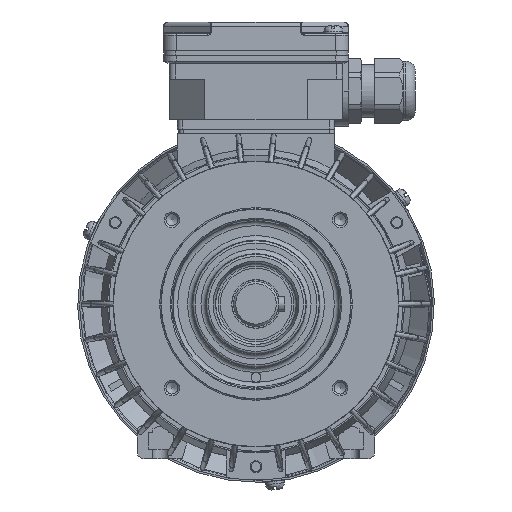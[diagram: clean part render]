
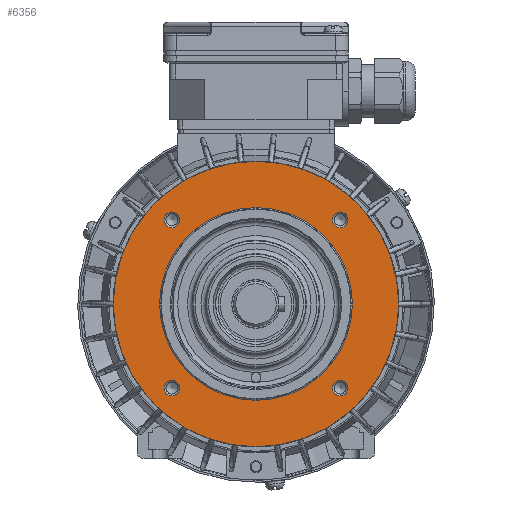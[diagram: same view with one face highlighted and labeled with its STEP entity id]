
A CAD part, left-side view. The second image highlights one B-rep face of the part: STEP entity #6356.
In plain terms, the highlighted planar face has unit normal (-1, 0, 0) as drawn and (0, -1, 0) by its records, which use the part's own axes.
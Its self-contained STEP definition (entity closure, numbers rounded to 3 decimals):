
#6356 = ADVANCED_FACE( '', ( #13157, #13158, #13159, #13160, #13161, #13162 ), #13163, .T. );
#13157 = FACE_BOUND( '', #34694, .T. );
#13158 = FACE_BOUND( '', #34695, .T. );
#13159 = FACE_BOUND( '', #34696, .T. );
#13160 = FACE_BOUND( '', #34697, .T. );
#13161 = FACE_BOUND( '', #34698, .T. );
#13162 = FACE_OUTER_BOUND( '', #34699, .T. );
#13163 = PLANE( '', #34700 );
#34694 = EDGE_LOOP( '', ( #55762 ) );
#34695 = EDGE_LOOP( '', ( #55763 ) );
#34696 = EDGE_LOOP( '', ( #55764 ) );
#34697 = EDGE_LOOP( '', ( #55765 ) );
#34698 = EDGE_LOOP( '', ( #55766 ) );
#34699 = EDGE_LOOP( '', ( #55767 ) );
#34700 = AXIS2_PLACEMENT_3D( '', #55768, #55769, #55770 );
#55762 = ORIENTED_EDGE( '', *, *, #63221, .T. );
#55763 = ORIENTED_EDGE( '', *, *, #66557, .T. );
#55764 = ORIENTED_EDGE( '', *, *, #64397, .T. );
#55765 = ORIENTED_EDGE( '', *, *, #60845, .T. );
#55766 = ORIENTED_EDGE( '', *, *, #68016, .T. );
#55767 = ORIENTED_EDGE( '', *, *, #68017, .T. );
#55768 = CARTESIAN_POINT( '', ( 0., 3., 40. ) );
#55769 = DIRECTION( '', ( 0., -1., 0. ) );
#55770 = DIRECTION( '', ( 0., 0., -1. ) );
#60845 = EDGE_CURVE( '', #70785, #70785, #70786, .F. );
#63221 = EDGE_CURVE( '', #74964, #74964, #74965, .F. );
#64397 = EDGE_CURVE( '', #76783, #76783, #76784, .F. );
#66557 = EDGE_CURVE( '', #79863, #79863, #79864, .F. );
#68016 = EDGE_CURVE( '', #81595, #81595, #81596, .F. );
#68017 = EDGE_CURVE( '', #81597, #81597, #81598, .T. );
#70785 = VERTEX_POINT( '', #84031 );
#70786 = CIRCLE( '', #84032, 3.3 );
#74964 = VERTEX_POINT( '', #92838 );
#74965 = CIRCLE( '', #92839, 3.3 );
#76783 = VERTEX_POINT( '', #97890 );
#76784 = CIRCLE( '', #97891, 3.3 );
#79863 = VERTEX_POINT( '', #105014 );
#79864 = CIRCLE( '', #105015, 3.3 );
#81595 = VERTEX_POINT( '', #110692 );
#81596 = CIRCLE( '', #110693, 40.5 );
#81597 = VERTEX_POINT( '', #110694 );
#81598 = CIRCLE( '', #110695, 60. );
#84031 = CARTESIAN_POINT( '', ( -35.355, 3., 32.055 ) );
#84032 = AXIS2_PLACEMENT_3D( '', #113891, #113892, #113893 );
#92838 = CARTESIAN_POINT( '', ( -35.355, 3., -38.655 ) );
#92839 = AXIS2_PLACEMENT_3D( '', #117143, #117144, #117145 );
#97890 = CARTESIAN_POINT( '', ( 35.355, 3., 32.055 ) );
#97891 = AXIS2_PLACEMENT_3D( '', #118448, #118449, #118450 );
#105014 = CARTESIAN_POINT( '', ( 35.355, 3., -38.655 ) );
#105015 = AXIS2_PLACEMENT_3D( '', #121010, #121011, #121012 );
#110692 = CARTESIAN_POINT( '', ( 0., 3., -40.5 ) );
#110693 = AXIS2_PLACEMENT_3D( '', #122053, #122054, #122055 );
#110694 = CARTESIAN_POINT( '', ( 0., 3., -60. ) );
#110695 = AXIS2_PLACEMENT_3D( '', #122056, #122057, #122058 );
#113891 = CARTESIAN_POINT( '', ( -35.355, 3., 35.355 ) );
#113892 = DIRECTION( '', ( 0., -1., 0. ) );
#113893 = DIRECTION( '', ( 0., 0., -1. ) );
#117143 = CARTESIAN_POINT( '', ( -35.355, 3., -35.355 ) );
#117144 = DIRECTION( '', ( 0., -1., 0. ) );
#117145 = DIRECTION( '', ( 0., 0., -1. ) );
#118448 = CARTESIAN_POINT( '', ( 35.355, 3., 35.355 ) );
#118449 = DIRECTION( '', ( 0., -1., 0. ) );
#118450 = DIRECTION( '', ( 0., 0., -1. ) );
#121010 = CARTESIAN_POINT( '', ( 35.355, 3., -35.355 ) );
#121011 = DIRECTION( '', ( 0., -1., 0. ) );
#121012 = DIRECTION( '', ( 0., 0., -1. ) );
#122053 = CARTESIAN_POINT( '', ( 0., 3., 0. ) );
#122054 = DIRECTION( '', ( 0., -1., 0. ) );
#122055 = DIRECTION( '', ( 0., 0., -1. ) );
#122056 = CARTESIAN_POINT( '', ( 0., 3., 0. ) );
#122057 = DIRECTION( '', ( 0., -1., 0. ) );
#122058 = DIRECTION( '', ( 0., 0., -1. ) );
